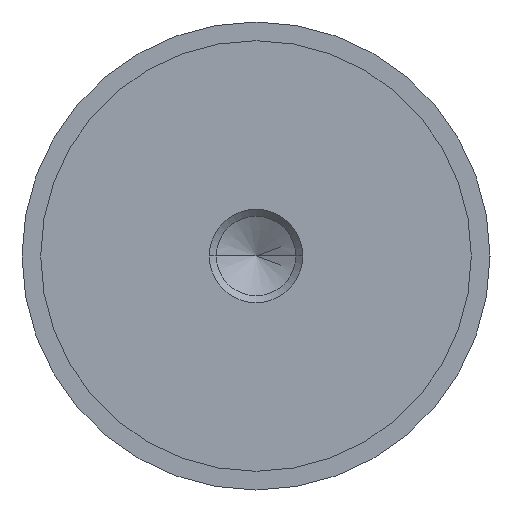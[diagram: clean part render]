
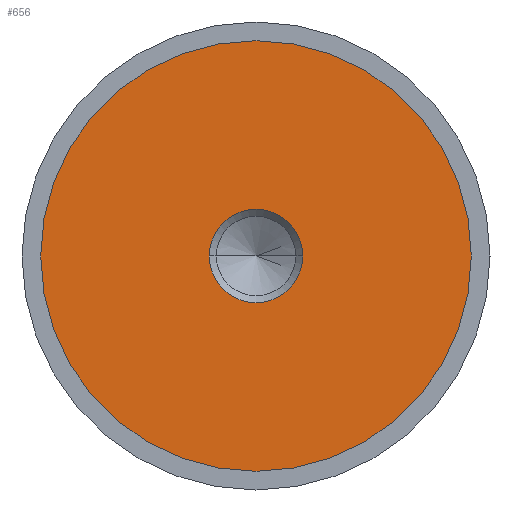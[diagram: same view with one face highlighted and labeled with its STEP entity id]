
A CAD part, left-side view. The second image highlights one B-rep face of the part: STEP entity #656.
In plain terms, the highlighted planar face has unit normal (-1, 0, 0).
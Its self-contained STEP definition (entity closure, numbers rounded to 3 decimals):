
#30 = EDGE_CURVE ( 'NONE', #423, #115, #610, .T. ) ;
#33 = DIRECTION ( 'NONE',  ( 0., 0., 1. ) ) ;
#74 = DIRECTION ( 'NONE',  ( 1., 0., 0. ) ) ;
#115 = VERTEX_POINT ( 'NONE', #157 ) ;
#120 = EDGE_CURVE ( 'NONE', #545, #387, #772, .T. ) ;
#123 = ORIENTED_EDGE ( 'NONE', *, *, #30, .T. ) ;
#131 = CARTESIAN_POINT ( 'NONE',  ( -24.99, 0., 23. ) ) ;
#137 = DIRECTION ( 'NONE',  ( 0., 0., -1. ) ) ;
#157 = CARTESIAN_POINT ( 'NONE',  ( -24.99, 0., -23. ) ) ;
#172 = EDGE_LOOP ( 'NONE', ( #123, #723 ) ) ;
#183 = EDGE_CURVE ( 'NONE', #115, #423, #757, .T. ) ;
#189 = CARTESIAN_POINT ( 'NONE',  ( -24.99, 0., 0. ) ) ;
#200 = CARTESIAN_POINT ( 'NONE',  ( -24.99, 4.99, 0. ) ) ;
#263 = AXIS2_PLACEMENT_3D ( 'NONE', #460, #464, #749 ) ;
#287 = CARTESIAN_POINT ( 'NONE',  ( -24.99, -4.99, 0. ) ) ;
#291 = CARTESIAN_POINT ( 'NONE',  ( -24.99, 23., 0. ) ) ;
#303 = FACE_BOUND ( 'NONE', #531, .T. ) ;
#312 = DIRECTION ( 'NONE',  ( 0., 0., 1. ) ) ;
#347 = FACE_OUTER_BOUND ( 'NONE', #172, .T. ) ;
#387 = VERTEX_POINT ( 'NONE', #200 ) ;
#403 = AXIS2_PLACEMENT_3D ( 'NONE', #586, #406, #33 ) ;
#406 = DIRECTION ( 'NONE',  ( -1., 0., 0. ) ) ;
#423 = VERTEX_POINT ( 'NONE', #131 ) ;
#460 = CARTESIAN_POINT ( 'NONE',  ( -24.99, 0., 0. ) ) ;
#464 = DIRECTION ( 'NONE',  ( 1., 0., 0. ) ) ;
#512 = DIRECTION ( 'NONE',  ( 1., 0., 0. ) ) ;
#531 = EDGE_LOOP ( 'NONE', ( #733, #708 ) ) ;
#542 = AXIS2_PLACEMENT_3D ( 'NONE', #189, #678, #312 ) ;
#545 = VERTEX_POINT ( 'NONE', #287 ) ;
#586 = CARTESIAN_POINT ( 'NONE',  ( -24.99, 0., 0. ) ) ;
#597 = PLANE ( 'NONE',  #601 ) ;
#601 = AXIS2_PLACEMENT_3D ( 'NONE', #291, #74, #137 ) ;
#610 = CIRCLE ( 'NONE', #542, 23. ) ;
#656 = ADVANCED_FACE ( 'NONE', ( #303, #347 ), #597, .F. ) ;
#658 = DIRECTION ( 'NONE',  ( 0., 0., -1. ) ) ;
#678 = DIRECTION ( 'NONE',  ( -1., 0., 0. ) ) ;
#708 = ORIENTED_EDGE ( 'NONE', *, *, #746, .T. ) ;
#723 = ORIENTED_EDGE ( 'NONE', *, *, #183, .T. ) ;
#733 = ORIENTED_EDGE ( 'NONE', *, *, #120, .T. ) ;
#746 = EDGE_CURVE ( 'NONE', #387, #545, #766, .T. ) ;
#749 = DIRECTION ( 'NONE',  ( 0., 0., -1. ) ) ;
#756 = AXIS2_PLACEMENT_3D ( 'NONE', #776, #512, #658 ) ;
#757 = CIRCLE ( 'NONE', #403, 23. ) ;
#766 = CIRCLE ( 'NONE', #263, 4.99 ) ;
#772 = CIRCLE ( 'NONE', #756, 4.99 ) ;
#776 = CARTESIAN_POINT ( 'NONE',  ( -24.99, 0., 0. ) ) ;
